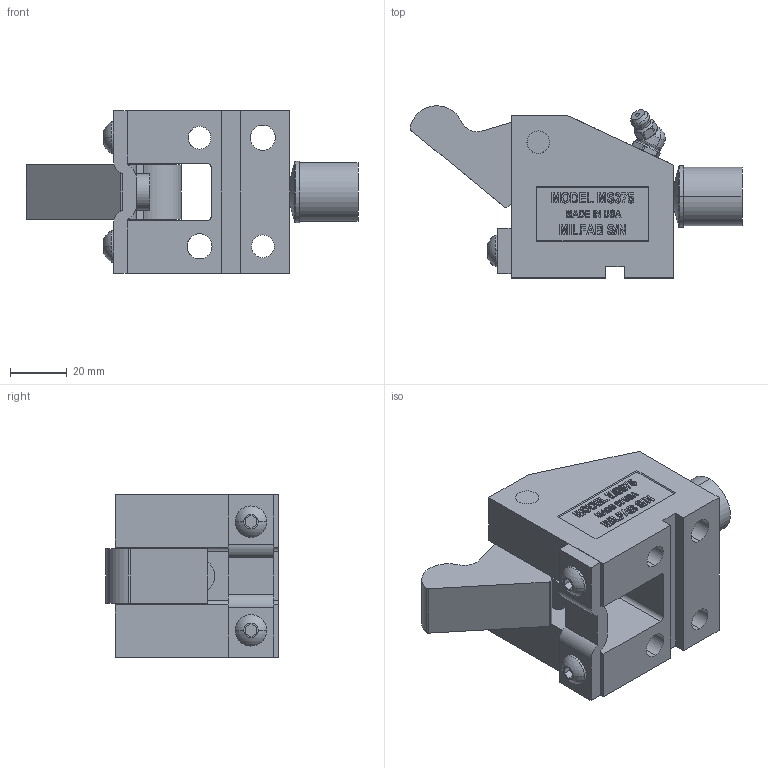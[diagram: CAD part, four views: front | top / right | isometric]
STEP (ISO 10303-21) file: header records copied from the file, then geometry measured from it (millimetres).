
FILE_DESCRIPTION (( 'STEP AP214' ), '1' );
FILE_NAME ('MS37545-O.STEP', '2014-01-07T18:52:56', ( 'user' ), ( '' ), 'SwSTEP 2.0', 'SolidWorks 2009', '' );
FILE_SCHEMA (( 'AUTOMOTIVE_DESIGN' ));
Length unit declared in the file: inch
Products named in the file (1): MS37545-O
Bounding box: 116.56 x 60.43 x 57.15 mm (x, y, z)
Surface area: 37761.5 mm2 (no closed solid volume)
Topology: 0 solids, 12 shells, 523 faces, 1459 edges, 976 vertices
Faces by surface type: plane 324, bspline 97, cylinder 67, torus 16, cone 15, sphere 4
Entity records: 29042 total; most frequent: CARTESIAN_POINT 9512, ORIENTED_EDGE 2792, DIRECTION 2213, EDGE_CURVE 1459, VERTEX_POINT 976, VECTOR 969, LINE 969, AXIS2_PLACEMENT_3D 622
